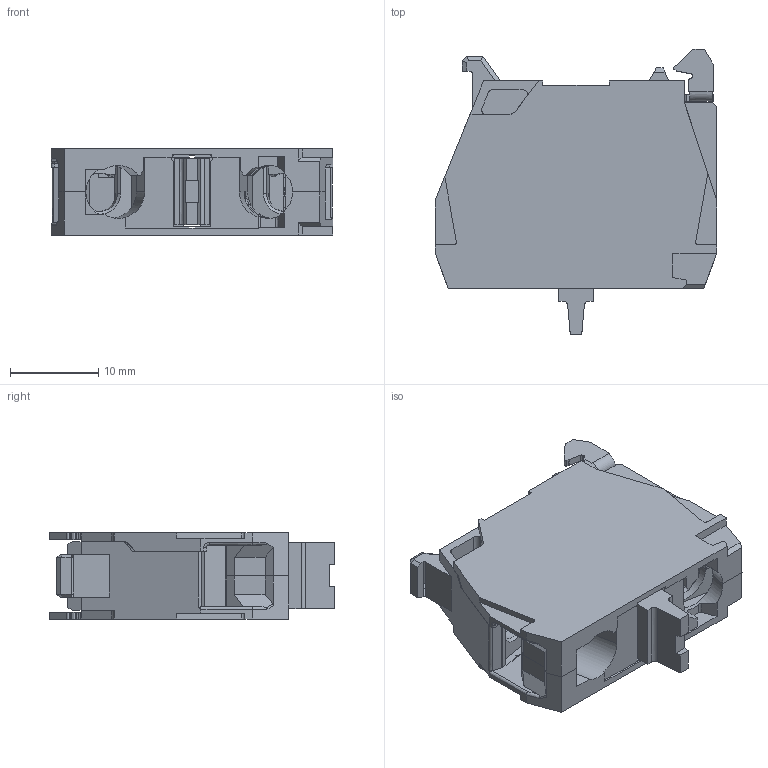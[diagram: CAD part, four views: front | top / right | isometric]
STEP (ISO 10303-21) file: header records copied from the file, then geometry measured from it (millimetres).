
FILE_DESCRIPTION((''),'2;1');
FILE_NAME('W815284100111_SW0001','2016-02-01T',('EBBX743'),('Schneider-Electric'),'PRO/ENGINEER BY PARAMETRIC TECHNOLOGY CORPORATION, 2014310','PRO/ENGINEER BY PARAMETRIC TECHNOLOGY CORPORATION, 2014310','');
FILE_SCHEMA(('CONFIG_CONTROL_DESIGN'));
Products named in the file (1): W815284100111_SW0001
Bounding box: 32 x 32.4 x 9.82 mm (x, y, z)
Surface area: 5685.5 mm2 (no closed solid volume)
Topology: 0 solids, 0 shells, 599 faces, 3651 edges, 3651 vertices
Faces by surface type: bspline 597, torus 1, sphere 1
Entity records: 52707 total; most frequent: CARTESIAN_POINT 17769, DIRECTION 5637, TRIMMED_CURVE 5339, VECTOR 5045, LINE 5045, DEFINITIONAL_REPRESENTATION 3650, PCURVE 3650, COMPOSITE_CURVE_SEGMENT 3650
